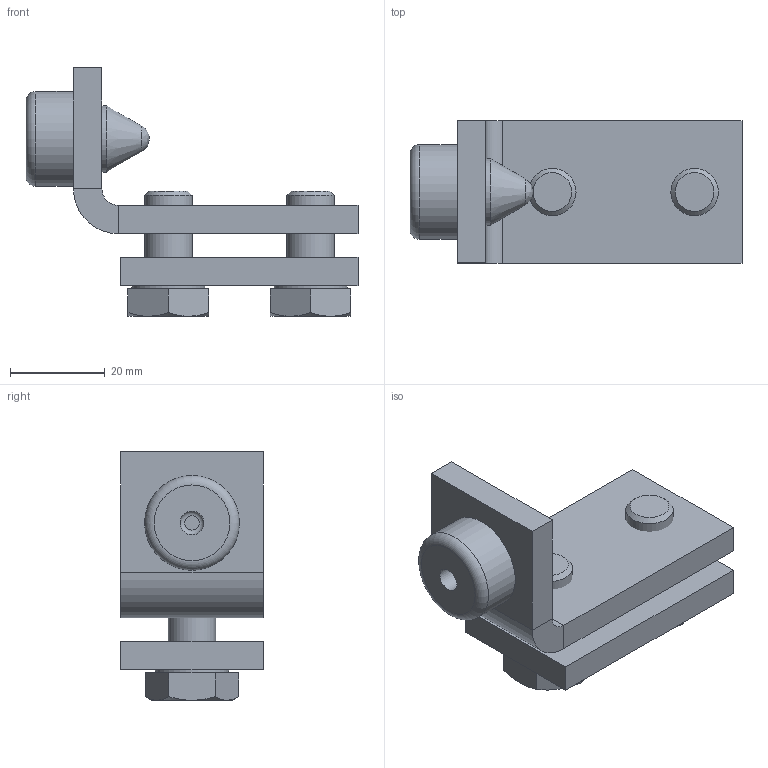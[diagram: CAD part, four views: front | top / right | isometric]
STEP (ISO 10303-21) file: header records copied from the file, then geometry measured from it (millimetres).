
FILE_DESCRIPTION(/* description */ ('Biegeteil mit Gewinde'),/* implementation_level */ '2;1');
FILE_NAME(/* name */ 'Q:\sge-ma\Produktmanagement-STB\STB\Workspace\stp\010336120.stp',/* time_stamp */ '2015-03-10T13:24:56+01:00',/* author */ ('avschreier'),/* organization */ (''),/* preprocessor_version */ 'ST-DEVELOPER v15.6',/* originating_system */ 'Autodesk Inventor 2015',/* authorisation */ '');
FILE_SCHEMA (('CONFIG_CONTROL_DESIGN'));
Length unit declared in the file: millimetre
Products named in the file (5): 337000239; 337000240; 004203040; DIN_EN_ISO_4017-M10x20_en; 010336120
Bounding box: 70 x 30 x 52.4 mm (x, y, z)
Volume: 32405.2 mm3; surface area: 15599 mm2
Topology: 5 solids, 5 shells, 81 faces, 165 edges, 101 vertices
Faces by surface type: plane 43, cylinder 17, cone 17, torus 3, bspline 1
Full cylindrical faces by diameter (mm): 5 x1, 8.376 x2, 9.188 x2, 10 x2, 10.5 x2, 11 x1, 11.5 x1, 14 x1, 15.4 x2, 20 x1
Entity records: 1622 total; most frequent: CARTESIAN_POINT 299, DIRECTION 270, ORIENTED_EDGE 206, AXIS2_PLACEMENT_3D 111, EDGE_CURVE 103, EDGE_LOOP 93, VERTEX_POINT 74, FACE_OUTER_BOUND 60
